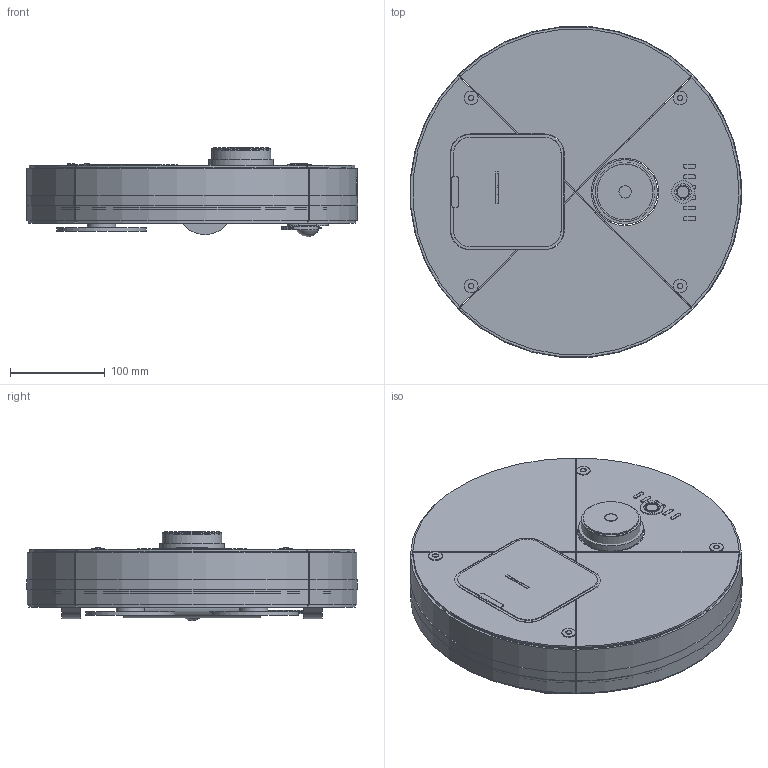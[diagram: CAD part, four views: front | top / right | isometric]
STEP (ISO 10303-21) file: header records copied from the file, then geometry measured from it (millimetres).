
FILE_DESCRIPTION(('FreeCAD Model'),'2;1');
FILE_NAME('Open CASCADE Shape Model','2026-10-27T12:57:39',('FreeCAD'),( 'FreeCAD'),'Open CASCADE STEP processor 7.8','FreeCAD','Unknown');
FILE_SCHEMA(('AUTOMOTIVE_DESIGN { 1 0 10303 214 1 1 1 1 }'));
Length unit declared in the file: millimetre
Products named in the file (1): Open CASCADE STEP translator 7.8 2
Bounding box: 348.84 x 348.18 x 94.15 mm (x, y, z)
Volume: 1679822.9 mm3; surface area: 672686.1 mm2
Topology: 97 solids, 97 shells, 589 faces, 1196 edges, 797 vertices
Faces by surface type: plane 402, cylinder 185, torus 1, sphere 1
Full cylindrical faces by diameter (mm): 5.8 x4, 12.4 x1, 13 x1, 13.8 x1, 14.4 x4, 17.2 x1, 23 x1, 23.2 x1, 24 x3, 27 x1, 30 x2, 31.6 x2, 32 x1, 39 x1, 42 x1, 52 x1, 58 x1, 58.6 x1, 58.8 x1, 60 x2, 62.4 x1, 68 x1, 71 x1, 94 x2
Entity records: 15261 total; most frequent: DIRECTION 2745, CARTESIAN_POINT 2579, ORIENTED_EDGE 2386, EDGE_CURVE 1193, AXIS2_PLACEMENT_3D 962, LINE 821, VECTOR 821, VERTEX_POINT 796
